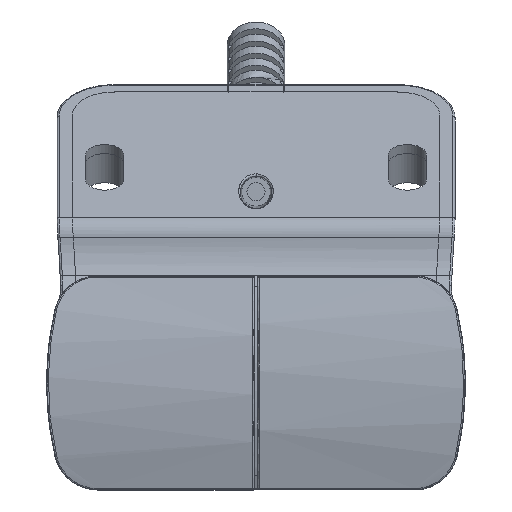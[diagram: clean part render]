
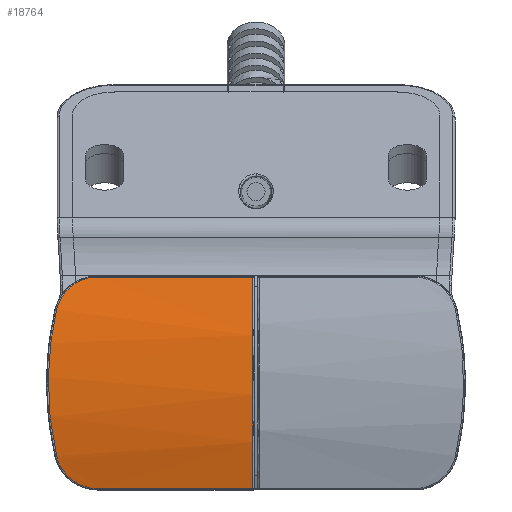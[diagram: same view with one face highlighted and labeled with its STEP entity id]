
A CAD part, front view. The second image highlights one B-rep face of the part: STEP entity #18764.
In plain terms, the highlighted cylindrical face has radius 50 mm (diameter 100 mm), a partial arc.
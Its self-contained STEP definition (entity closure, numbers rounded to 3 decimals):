
#18263=CARTESIAN_POINT('',(-21.979,2.201,
-14.671));
#18264=CARTESIAN_POINT('',(-22.312,2.201,
-14.671));
#18265=CARTESIAN_POINT('',(-22.806,2.188,
-14.629));
#18266=CARTESIAN_POINT('',(-23.45,2.145,
-14.489));
#18267=CARTESIAN_POINT('',(-23.924,2.101,
-14.342));
#18268=CARTESIAN_POINT('',(-24.384,2.046,
-14.156));
#18269=CARTESIAN_POINT('',(-24.82,1.981,
-13.935));
#18270=CARTESIAN_POINT('',(-25.238,1.907,
-13.677));
#18271=CARTESIAN_POINT('',(-25.634,1.824,
-13.383));
#18272=CARTESIAN_POINT('',(-26.002,1.735,
-13.059));
#18273=CARTESIAN_POINT('',(-26.338,1.642,-12.709));
#18274=CARTESIAN_POINT('',(-26.646,1.544,
-12.33));
#18275=CARTESIAN_POINT('',(-27.014,1.408,
-11.79));
#18276=CARTESIAN_POINT('',(-27.384,1.238,
-11.071));
#18277=CARTESIAN_POINT('',(-27.581,1.104,
-10.453));
#18278=CARTESIAN_POINT('',(-27.654,1.038,
-10.133));
#18280=CARTESIAN_POINT('',(-27.654,1.038,
-10.133));
#18281=CARTESIAN_POINT('',(-28.034,0.696,
-8.483));
#18282=CARTESIAN_POINT('',(-28.607,0.18,
-5.147));
#18283=CARTESIAN_POINT('',(-28.854,-0.044,
-0.897));
#18284=CARTESIAN_POINT('',(-28.757,0.043,
2.565));
#18285=CARTESIAN_POINT('',(-28.465,0.307,
5.974));
#18286=CARTESIAN_POINT('',(-28.034,0.696,
8.483));
#18287=CARTESIAN_POINT('',(-27.654,1.038,
10.133));
#18289=CARTESIAN_POINT('',(-27.654,1.038,
10.133));
#18290=CARTESIAN_POINT('',(-27.581,1.104,
10.453));
#18291=CARTESIAN_POINT('',(-27.433,1.205,
10.917));
#18292=CARTESIAN_POINT('',(-27.162,1.341,
11.503));
#18293=CARTESIAN_POINT('',(-26.92,1.443,
11.928));
#18294=CARTESIAN_POINT('',(-26.644,1.544,
12.333));
#18295=CARTESIAN_POINT('',(-26.337,1.642,
12.71));
#18296=CARTESIAN_POINT('',(-26.001,1.735,
13.06));
#18297=CARTESIAN_POINT('',(-25.634,1.824,
13.384));
#18298=CARTESIAN_POINT('',(-25.237,1.907,
13.677));
#18299=CARTESIAN_POINT('',(-24.82,1.981,
13.935));
#18300=CARTESIAN_POINT('',(-24.384,2.046,
14.156));
#18301=CARTESIAN_POINT('',(-23.927,2.101,
14.341));
#18302=CARTESIAN_POINT('',(-23.452,2.145,
14.488));
#18303=CARTESIAN_POINT('',(-22.806,2.188,
14.629));
#18304=CARTESIAN_POINT('',(-22.313,2.201,
14.671));
#18305=CARTESIAN_POINT('',(-21.979,2.201,
14.671));
#18307=DIRECTION('',(1.,0.,0.));
#18308=VECTOR('',#18307,21.541);
#18309=CARTESIAN_POINT('',(-21.979,2.201,
14.671));
#18310=LINE('',#18309,#18308);
#18311=CARTESIAN_POINT('',(-0.437,2.201,
14.671));
#18312=CARTESIAN_POINT('',(-0.456,1.473,
12.299));
#18313=CARTESIAN_POINT('',(-0.485,0.37,
7.445));
#18314=CARTESIAN_POINT('',(-0.5,-0.185,
0.));
#18315=CARTESIAN_POINT('',(-0.485,0.37,
-7.445));
#18316=CARTESIAN_POINT('',(-0.456,1.473,
-12.299));
#18317=CARTESIAN_POINT('',(-0.437,2.201,
-14.671));
#18319=DIRECTION('',(-1.,0.,0.));
#18320=VECTOR('',#18319,21.541);
#18321=CARTESIAN_POINT('',(-0.437,2.201,
-14.671));
#18322=LINE('',#18321,#18320);
#18329=CARTESIAN_POINT('',(-27.654,1.038,
-10.133));
#18340=CARTESIAN_POINT('',(-27.654,1.038,
10.133));
#18729=CARTESIAN_POINT('',(-0.437,2.201,
-14.671));
#18730=VERTEX_POINT('',#18729);
#18731=CARTESIAN_POINT('',(-21.979,2.201,
-14.671));
#18732=VERTEX_POINT('',#18731);
#18733=VERTEX_POINT('',#18329);
#18734=VERTEX_POINT('',#18340);
#18735=CARTESIAN_POINT('',(-21.979,2.201,
14.671));
#18736=VERTEX_POINT('',#18735);
#18737=CARTESIAN_POINT('',(-0.437,2.201,
14.671));
#18738=VERTEX_POINT('',#18737);
#18745=CARTESIAN_POINT('',(0.,50.,0.));
#18746=DIRECTION('',(1.,0.,0.));
#18747=DIRECTION('',(0.,0.,-1.));
#18748=AXIS2_PLACEMENT_3D('',#18745,#18746,#18747);
#18749=CYLINDRICAL_SURFACE('',#18748,50.);
#18751=ORIENTED_EDGE('',*,*,#18750,.T.);
#18753=ORIENTED_EDGE('',*,*,#18752,.T.);
#18755=ORIENTED_EDGE('',*,*,#18754,.T.);
#18757=ORIENTED_EDGE('',*,*,#18756,.T.);
#18759=ORIENTED_EDGE('',*,*,#18758,.T.);
#18761=ORIENTED_EDGE('',*,*,#18760,.T.);
#18762=EDGE_LOOP('',(#18751,#18753,#18755,#18757,#18759,#18761));
#18763=FACE_OUTER_BOUND('',#18762,.F.);
#18764=ADVANCED_FACE('',(#18763),#18749,.T.);
#18279=B_SPLINE_CURVE_WITH_KNOTS('',3,(#18263,#18264,#18265,#18266,#18267,
#18268,#18269,#18270,#18271,#18272,#18273,#18274,#18275,#18276,#18277,#18278),
.UNSPECIFIED.,.F.,.F.,(4,1,1,1,1,1,1,1,1,1,1,1,1,4),(0.,0.125,
0.188,0.25,0.313,0.375,
0.438,0.5,0.563,0.625,
0.688,0.75,0.875,1.),.UNSPECIFIED.);
#18288=B_SPLINE_CURVE_WITH_KNOTS('',3,(#18280,#18281,#18282,#18283,#18284,
#18285,#18286,#18287),.UNSPECIFIED.,.F.,.F.,(4,1,1,1,1,4),(0.,
0.25,0.5,0.625,0.75,1.),
.UNSPECIFIED.);
#18306=B_SPLINE_CURVE_WITH_KNOTS('',3,(#18289,#18290,#18291,#18292,#18293,
#18294,#18295,#18296,#18297,#18298,#18299,#18300,#18301,#18302,#18303,#18304,
#18305),.UNSPECIFIED.,.F.,.F.,(4,1,1,1,1,1,1,1,1,1,1,1,1,1,4),(0.,
0.125,0.187,0.25,0.312,
0.375,0.437,0.5,0.562,
0.625,0.687,0.75,0.812,
0.875,1.),.UNSPECIFIED.);
#18318=B_SPLINE_CURVE_WITH_KNOTS('',3,(#18311,#18312,#18313,#18314,#18315,
#18316,#18317),.UNSPECIFIED.,.F.,.F.,(4,1,1,1,4),(0.,0.25,0.5,
0.75,1.),.UNSPECIFIED.);
#18750=EDGE_CURVE('',#18732,#18733,#18279,.T.);
#18752=EDGE_CURVE('',#18733,#18734,#18288,.T.);
#18754=EDGE_CURVE('',#18734,#18736,#18306,.T.);
#18756=EDGE_CURVE('',#18736,#18738,#18310,.T.);
#18758=EDGE_CURVE('',#18738,#18730,#18318,.T.);
#18760=EDGE_CURVE('',#18730,#18732,#18322,.T.);
